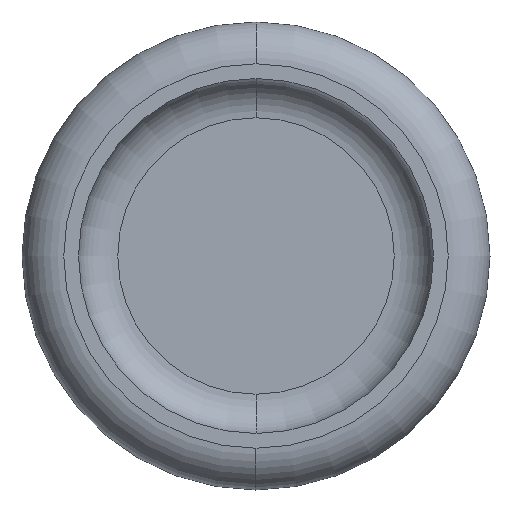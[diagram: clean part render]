
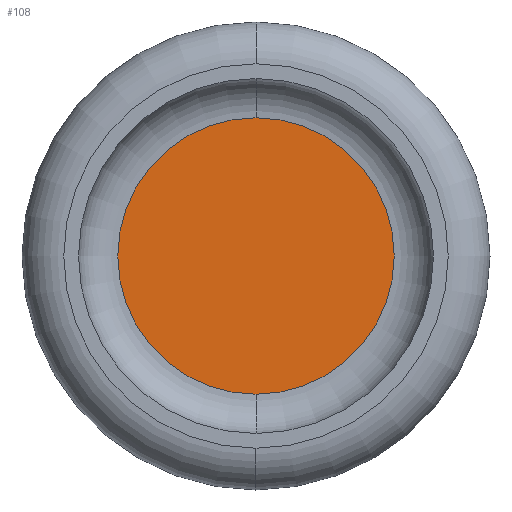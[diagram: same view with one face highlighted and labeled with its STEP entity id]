
A CAD part, left-side view. The second image highlights one B-rep face of the part: STEP entity #108.
In plain terms, the highlighted planar face has unit normal (-1, 0, 0).
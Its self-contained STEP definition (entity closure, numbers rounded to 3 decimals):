
#108=ADVANCED_FACE('',(#232),#233,.F.);
#232=FACE_OUTER_BOUND('',#378,.T.);
#233=PLANE('',#379);
#378=EDGE_LOOP('',(#618,#619));
#379=AXIS2_PLACEMENT_3D('',#620,#621,#622);
#618=ORIENTED_EDGE('',*,*,#887,.T.);
#619=ORIENTED_EDGE('',*,*,#885,.T.);
#620=CARTESIAN_POINT('',(40.2,0.,-5.625));
#621=DIRECTION('',(1.0,0.0,0.));
#622=DIRECTION('',(0.,0.,1.0));
#885=EDGE_CURVE('',#1060,#1063,#1065,.T.);
#887=EDGE_CURVE('',#1063,#1060,#1067,.T.);
#1060=VERTEX_POINT('',#1252);
#1063=VERTEX_POINT('',#1255);
#1065=CIRCLE('',#1257,11.25);
#1067=CIRCLE('',#1259,11.25);
#1252=CARTESIAN_POINT('',(40.2,0.,11.25));
#1255=CARTESIAN_POINT('',(40.2,0.,-11.25));
#1257=AXIS2_PLACEMENT_3D('',#1475,#1476,#1477);
#1259=AXIS2_PLACEMENT_3D('',#1478,#1479,#1480);
#1475=CARTESIAN_POINT('',(40.2,0.0,0.0));
#1476=DIRECTION('',(-1.0,0.0,0.0));
#1477=DIRECTION('',(0.0,0.0,-1.0));
#1478=CARTESIAN_POINT('',(40.2,0.0,0.0));
#1479=DIRECTION('',(-1.0,0.0,0.0));
#1480=DIRECTION('',(0.0,0.0,-1.0));
